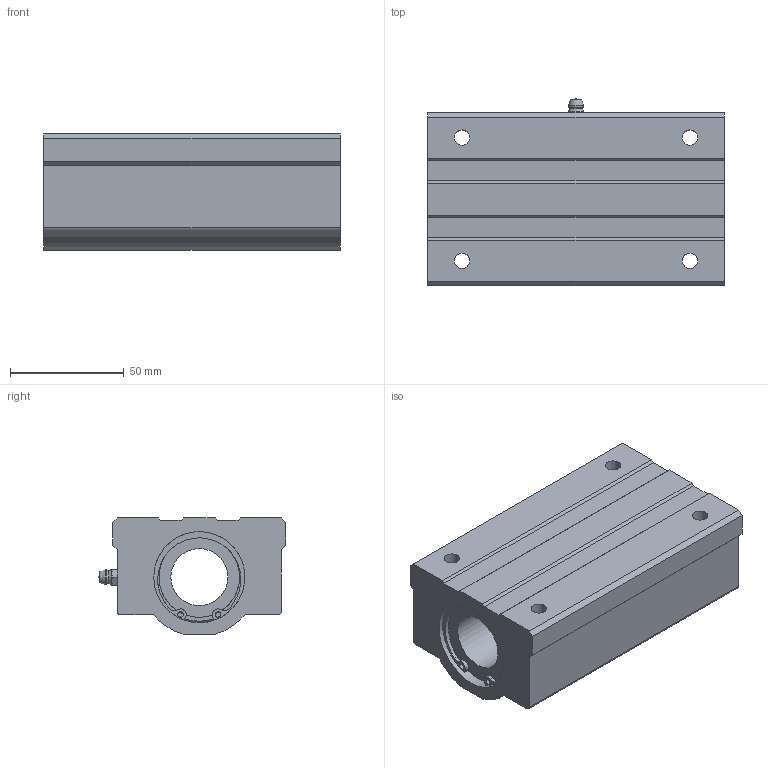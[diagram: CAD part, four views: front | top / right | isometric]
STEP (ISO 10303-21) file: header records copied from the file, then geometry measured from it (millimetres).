
FILE_DESCRIPTION((''),'2;1');
FILE_NAME('D:\製品 (図面)\カタログ用3D\リニアベアリング関連\STEP形式\LHW-B\LHW25B.stp','2010-05-21T10:50:50',('Tsuchiya'),(''),'Autodesk Inventor 10','Autodesk Inventor 10','');
FILE_SCHEMA(('AUTOMOTIVE_DESIGN { 1 0 10303 214 1 1 1 1 }'));
Length unit declared in the file: millimetre
Products named in the file (1): LHW25B
Bounding box: 130 x 82.4 x 51 mm (x, y, z)
Volume: 358233.7 mm3; surface area: 57401.8 mm2
Topology: 1 solids, 7 shells, 126 faces, 333 edges, 209 vertices
Faces by surface type: plane 50, bspline 40, cylinder 25, cone 7, torus 2, sphere 2
Full cylindrical faces by diameter (mm): 2.5 x2, 25 x2, 35.3 x2, 38 x2, 40 x8
Entity records: 3965 total; most frequent: CARTESIAN_POINT 1101, DIRECTION 590, ORIENTED_EDGE 544, EDGE_CURVE 272, AXIS2_PLACEMENT_3D 243, EDGE_LOOP 196, VERTEX_POINT 188, CIRCLE 156
